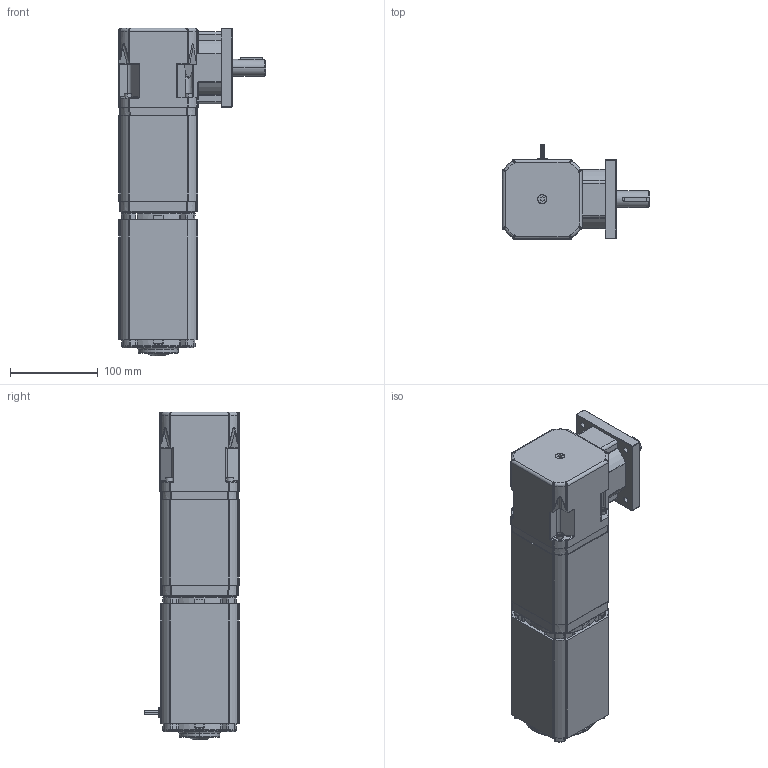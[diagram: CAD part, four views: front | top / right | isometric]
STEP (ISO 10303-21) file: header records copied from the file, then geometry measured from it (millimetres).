
FILE_DESCRIPTION (( 'STEP AP214' ), '1' );
FILE_NAME ('AC8060NV-RP7300_3S.STEP', '2013-08-28T20:07:08', ( '' ), ( '' ), 'SwSTEP 2.0', 'SolidWorks 2013', '' );
FILE_SCHEMA (( 'AUTOMOTIVE_DESIGN' ));
Length unit declared in the file: inch
Products named in the file (1): AC8060NV-RP7300_3S
Bounding box: 168.09 x 107.92 x 374.17 mm (x, y, z)
Surface area: 255719.5 mm2 (no closed solid volume)
Topology: 0 solids, 49 shells, 1137 faces, 3504 edges, 2314 vertices
Faces by surface type: cylinder 435, plane 330, bspline 148, cone 107, torus 92, sphere 25
Entity records: 57587 total; most frequent: CARTESIAN_POINT 12919, DIRECTION 6470, ORIENTED_EDGE 5678, EDGE_CURVE 3458, AXIS2_PLACEMENT_3D 2513, VERTEX_POINT 2314, CIRCLE 1523, VECTOR 1444
